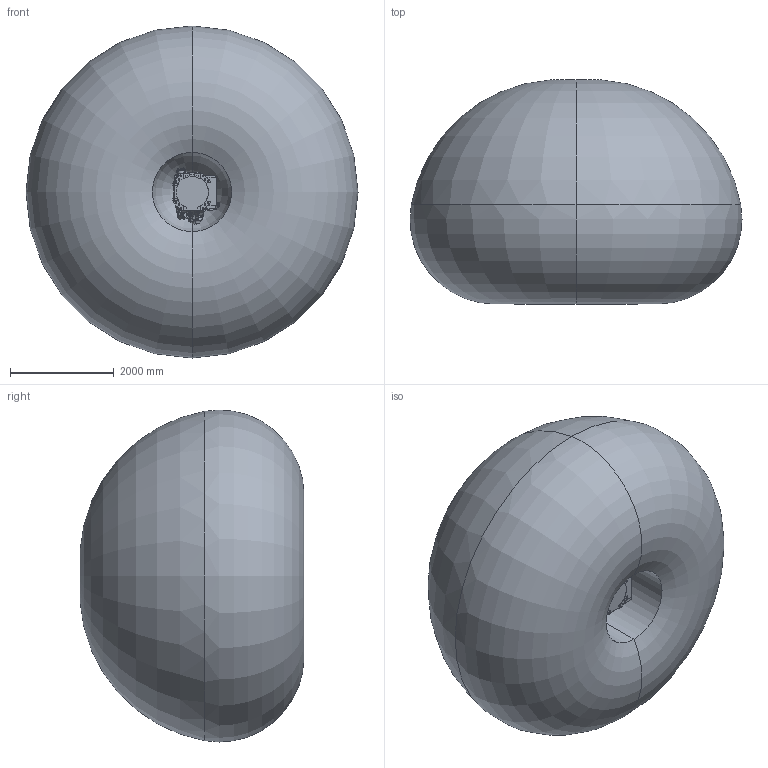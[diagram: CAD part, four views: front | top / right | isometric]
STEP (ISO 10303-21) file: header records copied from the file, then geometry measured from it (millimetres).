
FILE_DESCRIPTION (( 'STEP AP203' ), '1' );
FILE_NAME ('ER150-3200V3 机器人数模.STEP', '2024-05-20T02:17:49', ( 'admin' ), ( '' ), 'SwSTEP 2.0', 'SolidWorks 2021', '' );
FILE_SCHEMA (( 'CONFIG_CONTROL_DESIGN' ));
Length unit declared in the file: millimetre
Products named in the file (17): 复件 ER150-3200V3手腕部件2^已解密_ER150-3200V3 机器人数模; 复件 ER150-3200V3底座部件^已解密_ER150-3200V3 机器人数模; 复件 ER150-3200V3大臂部件^已解密_ER150-3200V3 机器人数模; 复件 ER150-3200V3平衡缸缸体部件^已解密_ER150-3200V3 机器人数模; 复件 ER150-3200V3工作空间^已解密_ER150-3200V3 机器人数模; 复件 ER150-3200V3手腕部件1^已解密_ER150-3200V3 机器人数模; 复件 电机3.step^复件 ER150-3200V3小臂部件_已解密_ER150-3200V3 机器人数模; 复件 电机.step^复件 ER150-3200V3转座部件_已解密_ER150-3200V3 机器人数模; 复件 电机2.step^复件 ER150-3200V3小臂部件_已解密_ER150-3200V3 机器人数模; 复件 ER150-3200V3转座部件^已解密_ER150-3200V3 机器人数模; ER150-3200V3 机器人数模; 复件 电机.step^复件 ER150-3200V3小臂部件_已解密_ER150-3200V3 机器人数模; 复件 ER150-3200V3平衡缸活塞部件^已解密_ER150-3200V3 机器人数模; 复件 ER150-3200V3小臂部件^已解密_ER150-3200V3 机器人数模; 复件 转座.step^复件 ER150-3200V3转座部件_已解密_ER150-3200V3 机器人数模; 复件 ER150-3200V3末端法兰^已解密_ER150-3200V3 机器人数模; 复件 小臂.step^复件 ER150-3200V3小臂部件_已解密_ER150-3200V3 机器人数模
Assembly tree (18 placements, depth 3):
  ER150-3200V3 机器人数模
    复件 ER150-3200V3底座部件^已解密_ER150-3200V3 机器人数模
    复件 ER150-3200V3转座部件^已解密_ER150-3200V3 机器人数模
      复件 转座.step^复件 ER150-3200V3转座部件_已解密_ER150-3200V3 机器人数模
      复件 电机.step^复件 ER150-3200V3转座部件_已解密_ER150-3200V3 机器人数模  x2
    复件 ER150-3200V3大臂部件^已解密_ER150-3200V3 机器人数模
    复件 ER150-3200V3平衡缸缸体部件^已解密_ER150-3200V3 机器人数模
    复件 ER150-3200V3平衡缸活塞部件^已解密_ER150-3200V3 机器人数模
    复件 ER150-3200V3小臂部件^已解密_ER150-3200V3 机器人数模
      复件 小臂.step^复件 ER150-3200V3小臂部件_已解密_ER150-3200V3 机器人数模
      复件 电机2.step^复件 ER150-3200V3小臂部件_已解密_ER150-3200V3 机器人数模
      复件 电机3.step^复件 ER150-3200V3小臂部件_已解密_ER150-3200V3 机器人数模  x2
      复件 电机.step^复件 ER150-3200V3小臂部件_已解密_ER150-3200V3 机器人数模
    复件 ER150-3200V3手腕部件1^已解密_ER150-3200V3 机器人数模
    复件 ER150-3200V3手腕部件2^已解密_ER150-3200V3 机器人数模
    复件 ER150-3200V3末端法兰^已解密_ER150-3200V3 机器人数模
    复件 ER150-3200V3工作空间^已解密_ER150-3200V3 机器人数模
Bounding box: 6385.78 x 4306.85 x 6385.78 mm (x, y, z)
Volume: 94156456455.5 mm3; surface area: 131958791.3 mm2
Topology: 16 solids, 63 shells, 6776 faces, 17462 edges, 11126 vertices
Faces by surface type: plane 3141, cylinder 2557, cone 562, bspline 337, torus 149, sphere 30
Entity records: 224210 total; most frequent: CARTESIAN_POINT 77489, ORIENTED_EDGE 30480, DIRECTION 29924, EDGE_CURVE 15240, AXIS2_PLACEMENT_3D 10791, VERTEX_POINT 9857, VECTOR 8342, LINE 8342
